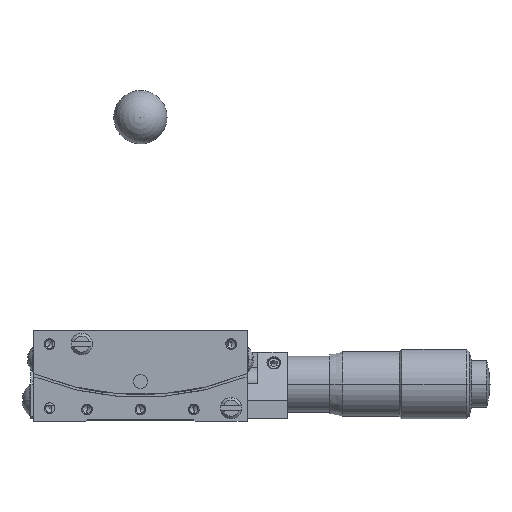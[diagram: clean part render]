
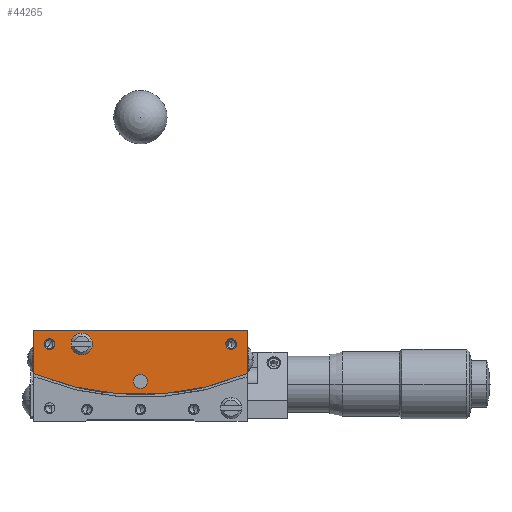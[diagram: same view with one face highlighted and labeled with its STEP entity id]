
A CAD part, front view. The second image highlights one B-rep face of the part: STEP entity #44265.
In plain terms, the highlighted planar face has unit normal (0, -1, 0) as drawn and (-1, 0, 0) by its records, which use the part's own axes.
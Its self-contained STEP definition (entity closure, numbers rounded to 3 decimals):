
#5936 = CARTESIAN_POINT ( 'NONE',  ( -20., 0.089, -10.797 ) ) ;
#6058 = CARTESIAN_POINT ( 'NONE',  ( -20., 11., -0.5 ) ) ;
#6059 = DIRECTION ( 'NONE',  ( 0., 0., -1. ) ) ;
#6060 = DIRECTION ( 'NONE',  ( -1., 0., 0. ) ) ;
#6061 = CARTESIAN_POINT ( 'NONE',  ( -20., 11., -2.5 ) ) ;
#6062 = AXIS2_PLACEMENT_3D ( 'NONE', #6061, #6060, #6059 ) ;
#6068 = CIRCLE ( 'NONE', #6062, 2. ) ;
#6069 = CARTESIAN_POINT ( 'NONE',  ( -20., -16.695, -1.548 ) ) ;
#6084 = CARTESIAN_POINT ( 'NONE',  ( -20., 17.625, -3.281 ) ) ;
#6085 = DIRECTION ( 'NONE',  ( 0., 0.625, -0.781 ) ) ;
#6086 = DIRECTION ( 'NONE',  ( -1., 0., 0. ) ) ;
#6087 = CARTESIAN_POINT ( 'NONE',  ( -20., 17., -2.5 ) ) ;
#6088 = AXIS2_PLACEMENT_3D ( 'NONE', #6087, #6086, #6085 ) ;
#6089 = CIRCLE ( 'NONE', #6088, 1. ) ;
#6090 = CARTESIAN_POINT ( 'NONE',  ( -20., 16.375, -1.719 ) ) ;
#6097 = DIRECTION ( 'NONE',  ( 0., 0.068, -0.998 ) ) ;
#6098 = DIRECTION ( 'NONE',  ( -1., 0., 0. ) ) ;
#6099 = CARTESIAN_POINT ( 'NONE',  ( -20., 0., -9.5 ) ) ;
#6100 = AXIS2_PLACEMENT_3D ( 'NONE', #6099, #6098, #6097 ) ;
#6101 = CIRCLE ( 'NONE', #6100, 1.3 ) ;
#6102 = CARTESIAN_POINT ( 'NONE',  ( -20., -0.089, -8.203 ) ) ;
#6124 = CARTESIAN_POINT ( 'NONE',  ( -20., -17.305, -3.452 ) ) ;
#6125 = DIRECTION ( 'NONE',  ( 0., -0.305, -0.952 ) ) ;
#6126 = DIRECTION ( 'NONE',  ( -1., 0., 0. ) ) ;
#6127 = CARTESIAN_POINT ( 'NONE',  ( -20., -17., -2.5 ) ) ;
#6128 = AXIS2_PLACEMENT_3D ( 'NONE', #6127, #6126, #6125 ) ;
#6129 = CIRCLE ( 'NONE', #6128, 1. ) ;
#6208 = CARTESIAN_POINT ( 'NONE',  ( -20., 11., -4.5 ) ) ;
#8003 = CARTESIAN_POINT ( 'NONE',  ( -20., -20., -8. ) ) ;
#8004 = DIRECTION ( 'NONE',  ( 0., 0., -1. ) ) ;
#8005 = VECTOR ( 'NONE', #8004, 1000. ) ;
#8006 = CARTESIAN_POINT ( 'NONE',  ( -20., -20., 0. ) ) ;
#8007 = LINE ( 'NONE', #8006, #8005 ) ;
#8008 = CARTESIAN_POINT ( 'NONE',  ( -20., -20., 0. ) ) ;
#12703 = DIRECTION ( 'NONE',  ( 0., 0., -1. ) ) ;
#12704 = DIRECTION ( 'NONE',  ( -1., 0., 0. ) ) ;
#12705 = CARTESIAN_POINT ( 'NONE',  ( -20., 11., -2.5 ) ) ;
#12706 = AXIS2_PLACEMENT_3D ( 'NONE', #12705, #12704, #12703 ) ;
#12707 = CIRCLE ( 'NONE', #12706, 2. ) ;
#12731 = DIRECTION ( 'NONE',  ( 0., 0.068, -0.998 ) ) ;
#12732 = DIRECTION ( 'NONE',  ( -1., 0., 0. ) ) ;
#12733 = CARTESIAN_POINT ( 'NONE',  ( -20., 0., -9.5 ) ) ;
#12734 = AXIS2_PLACEMENT_3D ( 'NONE', #12733, #12732, #12731 ) ;
#12735 = CIRCLE ( 'NONE', #12734, 1.3 ) ;
#12795 = DIRECTION ( 'NONE',  ( 0., 0.625, -0.781 ) ) ;
#12797 = DIRECTION ( 'NONE',  ( -1., 0., 0. ) ) ;
#12798 = CARTESIAN_POINT ( 'NONE',  ( -20., 17., -2.5 ) ) ;
#12799 = AXIS2_PLACEMENT_3D ( 'NONE', #12798, #12797, #12795 ) ;
#12804 = CIRCLE ( 'NONE', #12799, 1. ) ;
#12913 = DIRECTION ( 'NONE',  ( 0., -0.305, -0.952 ) ) ;
#12915 = DIRECTION ( 'NONE',  ( -1., 0., 0. ) ) ;
#12917 = CARTESIAN_POINT ( 'NONE',  ( -20., -17., -2.5 ) ) ;
#12918 = AXIS2_PLACEMENT_3D ( 'NONE', #12917, #12915, #12913 ) ;
#12920 = CIRCLE ( 'NONE', #12918, 1. ) ;
#14932 = CARTESIAN_POINT ( 'NONE',  ( -20., 20., 0. ) ) ;
#14934 = DIRECTION ( 'NONE',  ( 0., -1., 0. ) ) ;
#14936 = VECTOR ( 'NONE', #14934, 1000. ) ;
#14938 = CARTESIAN_POINT ( 'NONE',  ( -20., 20., 0. ) ) ;
#14947 = LINE ( 'NONE', #14938, #14936 ) ;
#14983 = CARTESIAN_POINT ( 'NONE',  ( -20., 20., -8. ) ) ;
#14985 = DIRECTION ( 'NONE',  ( 0., 0., 1. ) ) ;
#14987 = VECTOR ( 'NONE', #14985, 1000. ) ;
#14988 = CARTESIAN_POINT ( 'NONE',  ( -20., 20., -8. ) ) ;
#14989 = LINE ( 'NONE', #14988, #14987 ) ;
#15039 = PLANE ( 'NONE',  #15177 ) ;
#15041 = FACE_BOUND ( 'NONE', #44253, .T. ) ;
#15043 = FACE_BOUND ( 'NONE', #44247, .T. ) ;
#15044 = FACE_BOUND ( 'NONE', #44241, .T. ) ;
#15045 = FACE_OUTER_BOUND ( 'NONE', #44196, .T. ) ;
#15047 = FACE_BOUND ( 'NONE', #44266, .T. ) ;
#15086 = DIRECTION ( 'NONE',  ( 0., -1., 0. ) ) ;
#15088 = DIRECTION ( 'NONE',  ( 1., 0., 0. ) ) ;
#15090 = CARTESIAN_POINT ( 'NONE',  ( -20., 0., 40. ) ) ;
#15091 = AXIS2_PLACEMENT_3D ( 'NONE', #15090, #15088, #15086 ) ;
#15108 = CIRCLE ( 'NONE', #15091, 52. ) ;
#15173 = DIRECTION ( 'NONE',  ( 0., -1., 0. ) ) ;
#15175 = DIRECTION ( 'NONE',  ( 1., 0., 0. ) ) ;
#15176 = CARTESIAN_POINT ( 'NONE',  ( -20., 0., 40. ) ) ;
#15177 = AXIS2_PLACEMENT_3D ( 'NONE', #15176, #15175, #15173 ) ;
#38156 = VERTEX_POINT ( 'NONE', #5936 ) ;
#38229 = EDGE_CURVE ( 'NONE', #38381, #38231, #6068, .T. ) ;
#38231 = VERTEX_POINT ( 'NONE', #6058 ) ;
#38259 = VERTEX_POINT ( 'NONE', #6090 ) ;
#38263 = EDGE_CURVE ( 'NONE', #38259, #38265, #6089, .T. ) ;
#38265 = VERTEX_POINT ( 'NONE', #6084 ) ;
#38278 = VERTEX_POINT ( 'NONE', #6069 ) ;
#38280 = EDGE_CURVE ( 'NONE', #38278, #38281, #6129, .T. ) ;
#38281 = VERTEX_POINT ( 'NONE', #6124 ) ;
#38300 = VERTEX_POINT ( 'NONE', #6102 ) ;
#38304 = EDGE_CURVE ( 'NONE', #38300, #38156, #6101, .T. ) ;
#38381 = VERTEX_POINT ( 'NONE', #6208 ) ;
#39980 = VERTEX_POINT ( 'NONE', #8008 ) ;
#39982 = EDGE_CURVE ( 'NONE', #39980, #39984, #8007, .T. ) ;
#39984 = VERTEX_POINT ( 'NONE', #8003 ) ;
#43660 = EDGE_CURVE ( 'NONE', #38231, #38381, #12707, .T. ) ;
#43688 = EDGE_CURVE ( 'NONE', #38156, #38300, #12735, .T. ) ;
#43706 = EDGE_CURVE ( 'NONE', #38265, #38259, #12804, .T. ) ;
#43748 = EDGE_CURVE ( 'NONE', #38281, #38278, #12920, .T. ) ;
#44192 = ORIENTED_EDGE ( 'NONE', *, *, #43748, .F. ) ;
#44194 = ORIENTED_EDGE ( 'NONE', *, *, #38280, .F. ) ;
#44196 = EDGE_LOOP ( 'NONE', ( #44198, #44201, #44232, #44238 ) ) ;
#44198 = ORIENTED_EDGE ( 'NONE', *, *, #39982, .F. ) ;
#44201 = ORIENTED_EDGE ( 'NONE', *, *, #44202, .F. ) ;
#44202 = EDGE_CURVE ( 'NONE', #44203, #39980, #14947, .T. ) ;
#44203 = VERTEX_POINT ( 'NONE', #14932 ) ;
#44232 = ORIENTED_EDGE ( 'NONE', *, *, #44234, .F. ) ;
#44234 = EDGE_CURVE ( 'NONE', #44235, #44203, #14989, .T. ) ;
#44235 = VERTEX_POINT ( 'NONE', #14983 ) ;
#44238 = ORIENTED_EDGE ( 'NONE', *, *, #44240, .F. ) ;
#44240 = EDGE_CURVE ( 'NONE', #39984, #44235, #15108, .T. ) ;
#44241 = EDGE_LOOP ( 'NONE', ( #44243, #44245 ) ) ;
#44243 = ORIENTED_EDGE ( 'NONE', *, *, #43688, .F. ) ;
#44245 = ORIENTED_EDGE ( 'NONE', *, *, #38304, .F. ) ;
#44247 = EDGE_LOOP ( 'NONE', ( #44249, #44252 ) ) ;
#44249 = ORIENTED_EDGE ( 'NONE', *, *, #43706, .F. ) ;
#44252 = ORIENTED_EDGE ( 'NONE', *, *, #38263, .F. ) ;
#44253 = EDGE_LOOP ( 'NONE', ( #44281, #44284 ) ) ;
#44265 = ADVANCED_FACE ( 'NONE', ( #15047, #15045, #15044, #15043, #15041 ), #15039, .F. ) ;
#44266 = EDGE_LOOP ( 'NONE', ( #44192, #44194 ) ) ;
#44281 = ORIENTED_EDGE ( 'NONE', *, *, #43660, .F. ) ;
#44284 = ORIENTED_EDGE ( 'NONE', *, *, #38229, .F. ) ;
